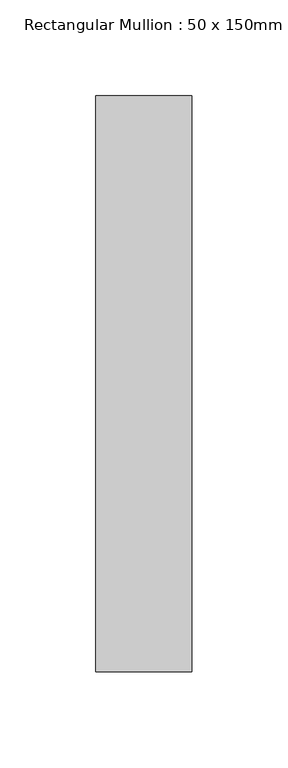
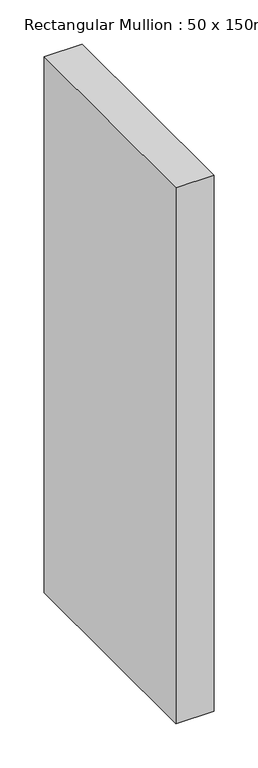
"""IFC4 building model written with IfcOpenShell, lengths in millimetres: member geometry, Rectangular Mullion : 50 x 150mm."""

from ifc_helpers import new_model, si_unit, frame, origin, place, context, project, spatial, polyline, outline, extrude, source, transform, mapped, element, save


def rectangular_mullion_50_x_150mm_be18659e(model_context):
    return source(origin(), model_context, "Body", "SweptSolid", [
        extrude(outline(polyline([(0.0, 175.0), (0.0, -125.0), (-50.0, -125.0), (-50.0, 175.0), (0.0, 175.0)])), frame((0.0, 0.0, -742.7583416), z_axis=(0.0, 0.0, 1.0), x_axis=(1.0, 0.0, 0.0)), (0.0, 0.0, 1.0), 742.7583416),
    ])


if __name__ == "__main__":
    model = new_model("IFC4")
    model_context = context("Model", 3, world=origin())
    ifc_project = project(units=[si_unit("LENGTHUNIT", "METRE", prefix="MILLI")], contexts=[model_context])
    site = spatial("IfcSite", under=ifc_project)
    building = spatial("IfcBuilding", under=site)
    placement = place(None, origin())
    rectangular_mullion_50_x_150mm_shape = rectangular_mullion_50_x_150mm_be18659e(model_context)
    element("IfcMember", 1, ObjectType="Rectangular Mullion : 50 x 150mm", at=placement, inside=building, context=model_context, shape_type="MappedRepresentation", body=[
        mapped(rectangular_mullion_50_x_150mm_shape, transform((0.0, 0.0, 0.0), x_axis=(1.0, 0.0, 0.0), y_axis=(0.0, 1.0, 0.0), z_axis=(0.0, 0.0, 1.0))),
    ])
    save(model, "model.ifc")
